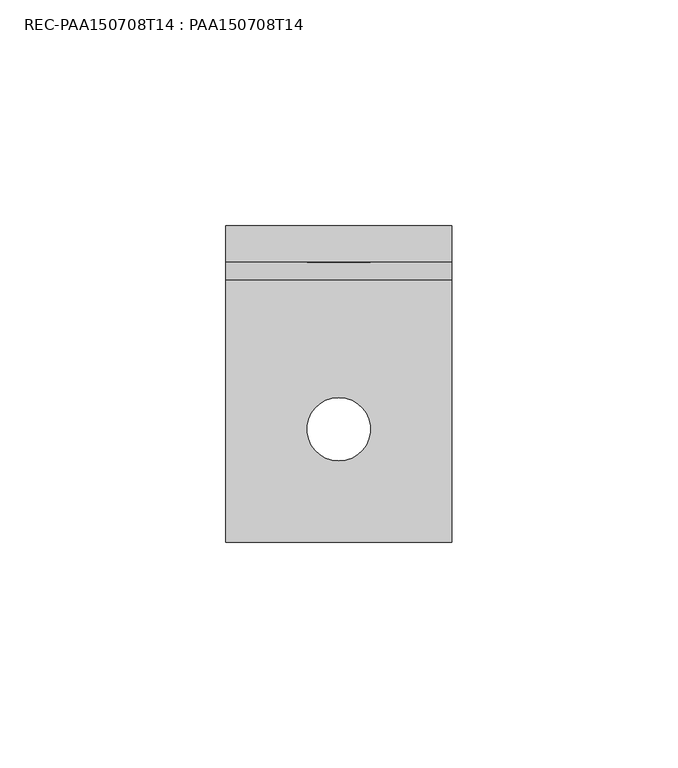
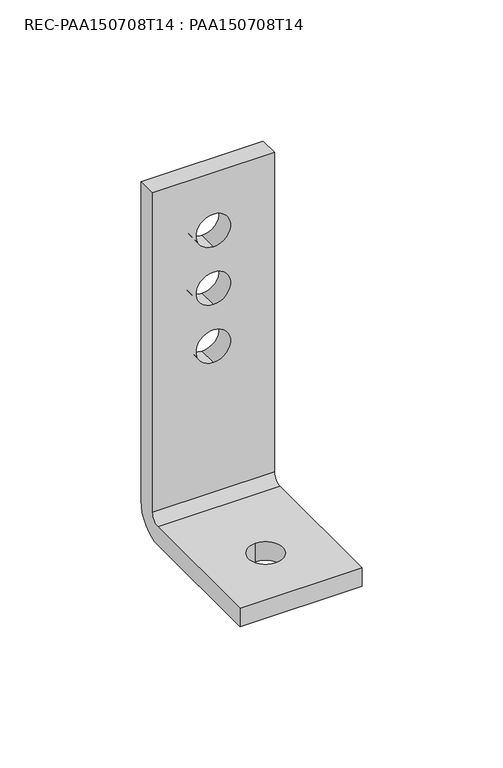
"""IFC4 building model written with IfcOpenShell, lengths in millimetres: fastener geometry, REC-PAA150708T14 : PAA150708T14."""

from ifc_helpers import new_model, si_unit, frame, origin, place, context, project, spatial, polyline, circle_curve, source, transform, mapped, element, save
from ifc_brep_helpers import plane_surface, cylinder_surface, revolved_surface, advanced_brep


def rec_paa150708t14_paa150708t14_b81293e0(model_context):
    return source(origin(), model_context, "Body", "AdvancedBrep", [
        advanced_brep(
        [(-25.0, -12.0, 8.0), (-25.0, -8.0, 12.0), (-25.0, -8.0, 150.0), (-25.0, 0.0, 150.0), (-25.0, 0.0, 12.0), (-25.0, -12.0, 0.0), (-25.0, -70.0, 0.0), (-25.0, -70.0, 8.0), (25.0, -12.0, 8.0), (25.0, -70.0, 8.0), (25.0, -70.0, 0.0), (25.0, -12.0, 0.0), (25.0, 0.0, 12.0), (25.0, 0.0, 150.0), (25.0, -8.0, 150.0), (25.0, -8.0, 12.0), (0.0, -52.0, 8.0), (0.0, -38.0, 8.0), (0.0, -38.0, 0.0), (0.0, -52.0, 0.0), (0.0, 0.0, 82.0), (0.0, 0.0, 68.0), (0.0, 0.0, 107.0), (0.0, 0.0, 93.0), (0.0, 0.0, 132.0), (0.0, 0.0, 118.0), (0.0, -8.0, 68.0), (0.0, -8.0, 82.0), (0.0, -8.0, 93.0), (0.0, -8.0, 107.0), (0.0, -8.0, 118.0), (0.0, -8.0, 132.0)],
        [
            (0, 1, circle_curve(frame((-25.0, -12.0, 12.0), z_axis=(1.0, 0.0, 0.0), x_axis=(0.0, 0.0, 1.0)), 4.0)),
            (1, 2),
            (2, 3),
            (3, 4),
            (4, 5, circle_curve(frame((-25.0, -12.0, 12.0), z_axis=(-1.0, 0.0, 0.0), x_axis=(0.0, 0.0, 1.0)), 12.0)),
            (5, 6),
            (6, 7),
            (7, 0),
            (8, 9),
            (9, 10),
            (10, 11),
            (11, 12, circle_curve(frame((25.0, -12.0, 12.0), z_axis=(1.0, 0.0, 0.0), x_axis=(0.0, 0.0, 1.0)), 12.0)),
            (12, 13),
            (13, 14),
            (14, 15),
            (15, 8, circle_curve(frame((25.0, -12.0, 12.0), z_axis=(-1.0, 0.0, 0.0), x_axis=(0.0, 0.0, 1.0)), 4.0)),
            (7, 9),
            (8, 0),
            (16, 17, circle_curve(frame((0.0, -45.0, 8.0), z_axis=(0.0, 0.0, -1.0), x_axis=(0.0, 1.0, 0.0)), 7.0)),
            (17, 16, circle_curve(frame((0.0, -45.0, 8.0), z_axis=(0.0, 0.0, -1.0), x_axis=(0.0, 1.0, 0.0)), 7.0)),
            (6, 10),
            (5, 11),
            (18, 19, circle_curve(frame((0.0, -45.0, 0.0), z_axis=(0.0, 0.0, 1.0), x_axis=(0.0, 1.0, 0.0)), 7.0)),
            (19, 18, circle_curve(frame((0.0, -45.0, 0.0), z_axis=(0.0, 0.0, 1.0), x_axis=(0.0, 1.0, 0.0)), 7.0)),
            (4, 12),
            (3, 13),
            (20, 21, circle_curve(frame((0.0, 0.0, 75.0), z_axis=(0.0, -1.0, 0.0), x_axis=(0.0, 0.0, -1.0)), 7.0)),
            (21, 20, circle_curve(frame((0.0, 0.0, 75.0), z_axis=(0.0, -1.0, 0.0), x_axis=(0.0, 0.0, -1.0)), 7.0)),
            (22, 23, circle_curve(frame((0.0, 0.0, 100.0), z_axis=(0.0, -1.0, 0.0), x_axis=(0.0, 0.0, -1.0)), 7.0)),
            (23, 22, circle_curve(frame((0.0, 0.0, 100.0), z_axis=(0.0, -1.0, 0.0), x_axis=(0.0, 0.0, -1.0)), 7.0)),
            (24, 25, circle_curve(frame((0.0, 0.0, 125.0), z_axis=(0.0, -1.0, 0.0), x_axis=(0.0, 0.0, -1.0)), 7.0)),
            (25, 24, circle_curve(frame((0.0, 0.0, 125.0), z_axis=(0.0, -1.0, 0.0), x_axis=(0.0, 0.0, -1.0)), 7.0)),
            (2, 14),
            (1, 15),
            (26, 27, circle_curve(frame((0.0, -8.0, 75.0), z_axis=(0.0, 1.0, 0.0), x_axis=(0.0, 0.0, -1.0)), 7.0)),
            (27, 26, circle_curve(frame((0.0, -8.0, 75.0), z_axis=(0.0, 1.0, 0.0), x_axis=(0.0, 0.0, -1.0)), 7.0)),
            (28, 29, circle_curve(frame((0.0, -8.0, 100.0), z_axis=(0.0, 1.0, 0.0), x_axis=(0.0, 0.0, -1.0)), 7.0)),
            (29, 28, circle_curve(frame((0.0, -8.0, 100.0), z_axis=(0.0, 1.0, 0.0), x_axis=(0.0, 0.0, -1.0)), 7.0)),
            (30, 31, circle_curve(frame((0.0, -8.0, 125.0), z_axis=(0.0, 1.0, 0.0), x_axis=(0.0, 0.0, -1.0)), 7.0)),
            (31, 30, circle_curve(frame((0.0, -8.0, 125.0), z_axis=(0.0, 1.0, 0.0), x_axis=(0.0, 0.0, -1.0)), 7.0)),
            (17, 18),
            (19, 16),
            (21, 26),
            (27, 20),
            (23, 28),
            (29, 22),
            (25, 30),
            (31, 24),
        ],
        [
            plane_surface(frame((-25.0, -70.0, 8.0), z_axis=(-1.0, 0.0, 0.0), x_axis=(0.0, -1.0, 0.0))),
            plane_surface(frame((25.0, -70.0, 8.0), z_axis=(1.0, 0.0, 0.0), x_axis=(0.0, 1.0, 0.0))),
            plane_surface(frame((-25.0, -12.0, 8.0), z_axis=(0.0, 0.0, 1.0), x_axis=(1.0, 0.0, 0.0))),
            plane_surface(frame((-25.0, -70.0, 8.0), z_axis=(0.0, -1.0, 0.0), x_axis=(1.0, 0.0, 0.0))),
            plane_surface(frame((-25.0, -70.0, 0.0), z_axis=(0.0, 0.0, -1.0), x_axis=(1.0, 0.0, 0.0))),
            cylinder_surface(frame((25.0, -12.0, 12.0), z_axis=(-1.0, 0.0, 0.0), x_axis=(0.0, 0.0, 1.0)), 12.0),
            plane_surface(frame((-25.0, 0.0, 12.0), z_axis=(0.0, 1.0, 0.0), x_axis=(1.0, 0.0, 0.0))),
            plane_surface(frame((-25.0, 0.0, 150.0), z_axis=(0.0, 0.0, 1.0), x_axis=(1.0, 0.0, 0.0))),
            plane_surface(frame((-25.0, -8.0, 150.0), z_axis=(0.0, -1.0, 0.0), x_axis=(1.0, 0.0, 0.0))),
            revolved_surface(polyline([(25.0, -12.0, 16.0), (-25.0, -12.0, 16.0)]), (25.0, -12.0, 12.0), (1.0, 0.0, 0.0)),
            revolved_surface(polyline([(0.0, -38.0, 8.0), (0.0, -38.0, 0.0)]), (0.0, -45.0, 0.0), (0.0, 0.0, 1.0)),
            revolved_surface(polyline([(0.0, 0.0, 68.0), (0.0, -8.0, 68.0)]), (0.0, -8.0, 75.0), (0.0, 1.0, 0.0)),
            revolved_surface(polyline([(0.0, 0.0, 93.0), (0.0, -8.0, 93.0)]), (0.0, -8.0, 100.0), (0.0, 1.0, 0.0)),
            revolved_surface(polyline([(0.0, 0.0, 118.0), (0.0, -8.0, 118.0)]), (0.0, -8.0, 125.0), (0.0, 1.0, 0.0)),
        ],
        [
            (0, [[1, 2, 3, 4, 5, 6, 7, 8]]),
            (1, [[9, 10, 11, 12, 13, 14, 15, 16]]),
            (2, [[17, -9, 18, -8], [19, 20]]),
            (3, [[21, -10, -17, -7]]),
            (4, [[22, -11, -21, -6], [23, 24]]),
            (5, [[25, -12, -22, -5]]),
            (6, [[26, -13, -25, -4], [27, 28], [29, 30], [31, 32]]),
            (7, [[33, -14, -26, -3]]),
            (8, [[34, -15, -33, -2], [35, 36], [37, 38], [39, 40]]),
            (9, [[-18, -16, -34, -1]]),
            (10, [[-20, 41, -24, 42]]),
            (10, [[-23, -41, -19, -42]]),
            (11, [[-28, 43, -36, 44]]),
            (11, [[-35, -43, -27, -44]]),
            (12, [[-30, 45, -38, 46]]),
            (12, [[-37, -45, -29, -46]]),
            (13, [[-32, 47, -40, 48]]),
            (13, [[-39, -47, -31, -48]]),
        ],
    ),
    ])


if __name__ == "__main__":
    model = new_model("IFC4")
    model_context = context("Model", 3, world=origin())
    ifc_project = project(units=[si_unit("LENGTHUNIT", "METRE", prefix="MILLI")], contexts=[model_context])
    site = spatial("IfcSite", under=ifc_project)
    building = spatial("IfcBuilding", under=site)
    placement = place(None, origin())
    rec_paa150708t14_paa150708t14_shape = rec_paa150708t14_paa150708t14_b81293e0(model_context)
    element("IfcFastener", 1, ObjectType="REC-PAA150708T14 : PAA150708T14", at=placement, inside=building, context=model_context, shape_type="MappedRepresentation", body=[
        mapped(rec_paa150708t14_paa150708t14_shape, transform((0.0, 0.0, 0.0), x_axis=(1.0, 0.0, 0.0), y_axis=(0.0, 1.0, 0.0), z_axis=(0.0, 0.0, 1.0))),
    ])
    save(model, "model.ifc")
